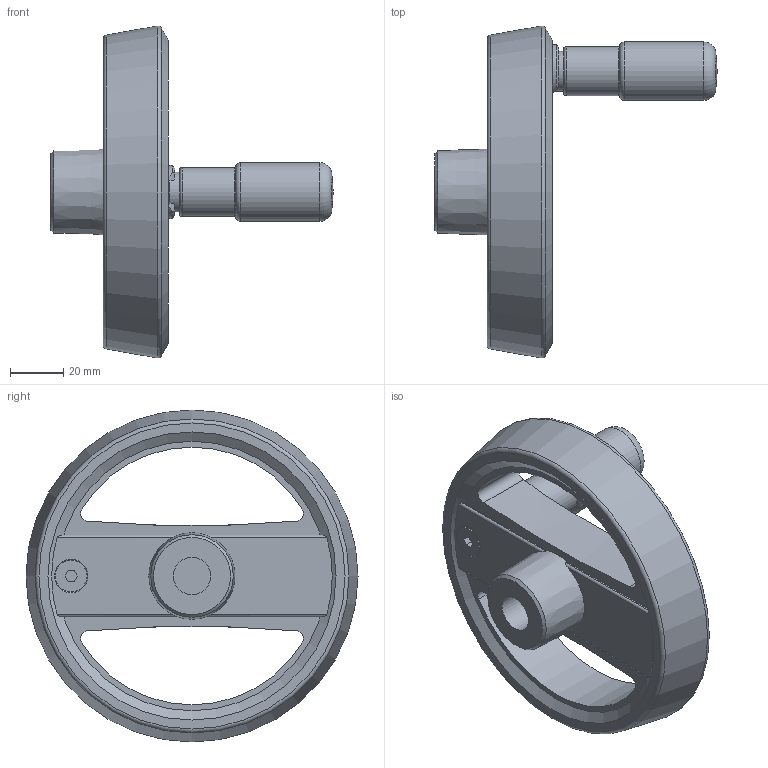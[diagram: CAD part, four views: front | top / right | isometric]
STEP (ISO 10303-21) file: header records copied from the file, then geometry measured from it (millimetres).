
FILE_DESCRIPTION( ( 'STEP AP203' ), '1' );
FILE_NAME( 'C:/Temp/Ganter_Step_05_03_2020/data/1_3/gn_924_7/gn_924_7_b/Handwheel with retractable handle GN 924.7-125-B14-R-SR (activated).stp', '2020-03-05T10:41:29', ( 'License CC BY-ND 4.0' ), ( 'CADENAS' ), ' ', 'PARTsolutions', ' ' );
FILE_SCHEMA( ( 'CONFIG_CONTROL_DESIGN' ) );
Length unit declared in the file: millimetre
Products named in the file (3): Handwheel with retractable handle GN 924.7-125-B14-R-SR (activated); _Umleggriff-Handrad GN 924.7-125-B14-R-SR-1; _Umleggriff-Handrad GN 924.7-125-B14-R-SR (90)-2
Assembly tree (2 placements, depth 2):
  Handwheel with retractable handle GN 924.7-125-B14-R-SR (activated)
    _Umleggriff-Handrad GN 924.7-125-B14-R-SR-1
    _Umleggriff-Handrad GN 924.7-125-B14-R-SR (90)-2
Bounding box: 106.3 x 125 x 125 mm (x, y, z)
Volume: 166313 mm3; surface area: 51630.5 mm2
Topology: 2 solids, 2 shells, 103 faces, 264 edges, 169 vertices
Faces by surface type: plane 43, cylinder 39, cone 11, torus 8, sphere 2
Full cylindrical faces by diameter (mm): 4 x4, 5 x1, 8 x1, 12 x1, 14 x1, 15 x1, 18.5 x1, 20 x1, 22 x1, 24 x1, 25.6 x1
Entity records: 3386 total; most frequent: CARTESIAN_POINT 975, DIRECTION 478, ORIENTED_EDGE 432, EDGE_CURVE 216, AXIS2_PLACEMENT_3D 200, VERTEX_POINT 159, EDGE_LOOP 156, FACE_OUTER_BOUND 124
